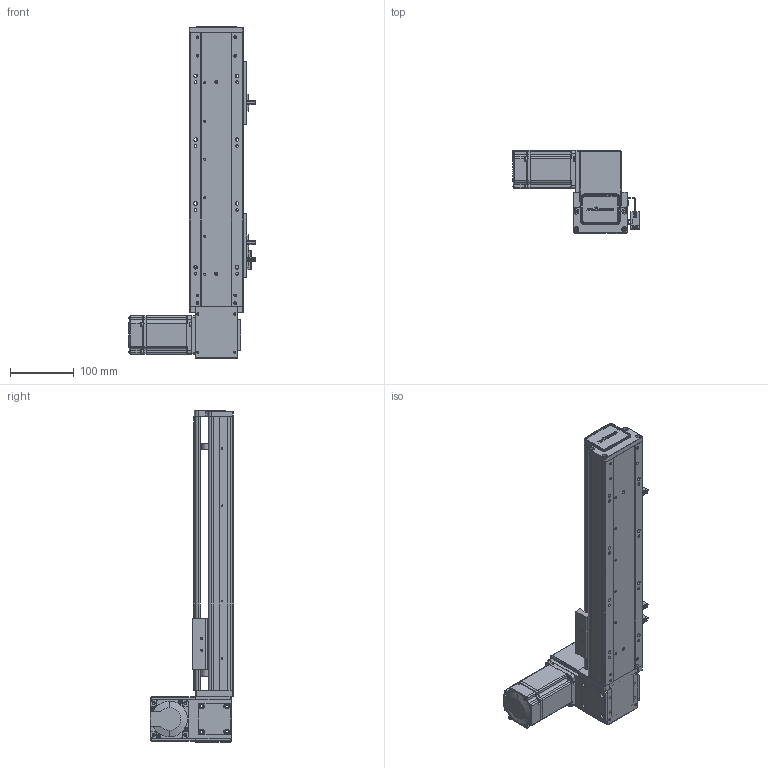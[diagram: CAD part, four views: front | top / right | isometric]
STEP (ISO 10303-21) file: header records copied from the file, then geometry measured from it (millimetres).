
FILE_DESCRIPTION (( 'STEP AP203' ), '1' );
FILE_NAME ('RY80-T-300-UL.SLDASM_250.step', '2021-03-01T02:16:12', ( '盈信电脑' ), ( '东莞市道滘镇水果街19号' ), 'SwSTEP 2.0', 'SolidWorks 2012', '' );
FILE_SCHEMA (( 'CONFIG_CONTROL_DESIGN' ));
Products named in the file (19): RY80-T-300-UL.SLDASM_250; RY80-T-上下折同步轮盖板; RY80-T肮祭謫奻殏俋欶; RY80-T-M4蹟翐2; 1; RY80-T萇儂假蚾啣; RY80-T翋肮祭謫裔啣; RY80-T粣創揤踡輸; 滅袉蝶18-10; RY80-T肮祭湍揤輸1; RY80-T肮祭湍揤輸2; RY80俋离覜茼え; RY80-T-翋肮祭謫釱; RY80-T綴裔啣; 672嫖萇羲壽假蚾釱; RY80-T-300-UL倰第奻裔啣_250; 覜茼ん672; RY80-T-300-UL倰第菁釱_250; RY80-T肮祭謫臏賑輸
Assembly tree (24 placements, depth 2):
  RY80-T-300-UL.SLDASM_250
    RY80-T-300-UL倰第菁釱_250
    RY80-T肮祭謫臏賑輸
    RY80-T-300-UL倰第奻裔啣_250
    RY80-T綴裔啣
    672嫖萇羲壽假蚾釱  x2
    覜茼ん672  x3
    RY80俋离覜茼え
    RY80-T-翋肮祭謫釱
    RY80-T肮祭湍揤輸1
    RY80-T肮祭湍揤輸2
    RY80-T萇儂假蚾啣
    RY80-T粣創揤踡輸  x2
    滅袉蝶18-10  x2
    RY80-T翋肮祭謫裔啣
    1
    RY80-T肮祭謫奻殏俋欶
    RY80-T-M4蹟翐2  x2
    RY80-T-上下折同步轮盖板
Bounding box: 198.7 x 130.5 x 520 mm (x, y, z)
Volume: 1223239.2 mm3; surface area: 480420.8 mm2
Topology: 24 solids, 24 shells, 2377 faces, 6500 edges, 4217 vertices
Faces by surface type: plane 1322, cylinder 853, cone 146, bspline 56
Entity records: 72703 total; most frequent: CARTESIAN_POINT 16824, ORIENTED_EDGE 11384, DIRECTION 10836, EDGE_CURVE 5692, VERTEX_POINT 3738, VECTOR 3640, LINE 3640, AXIS2_PLACEMENT_3D 3598
